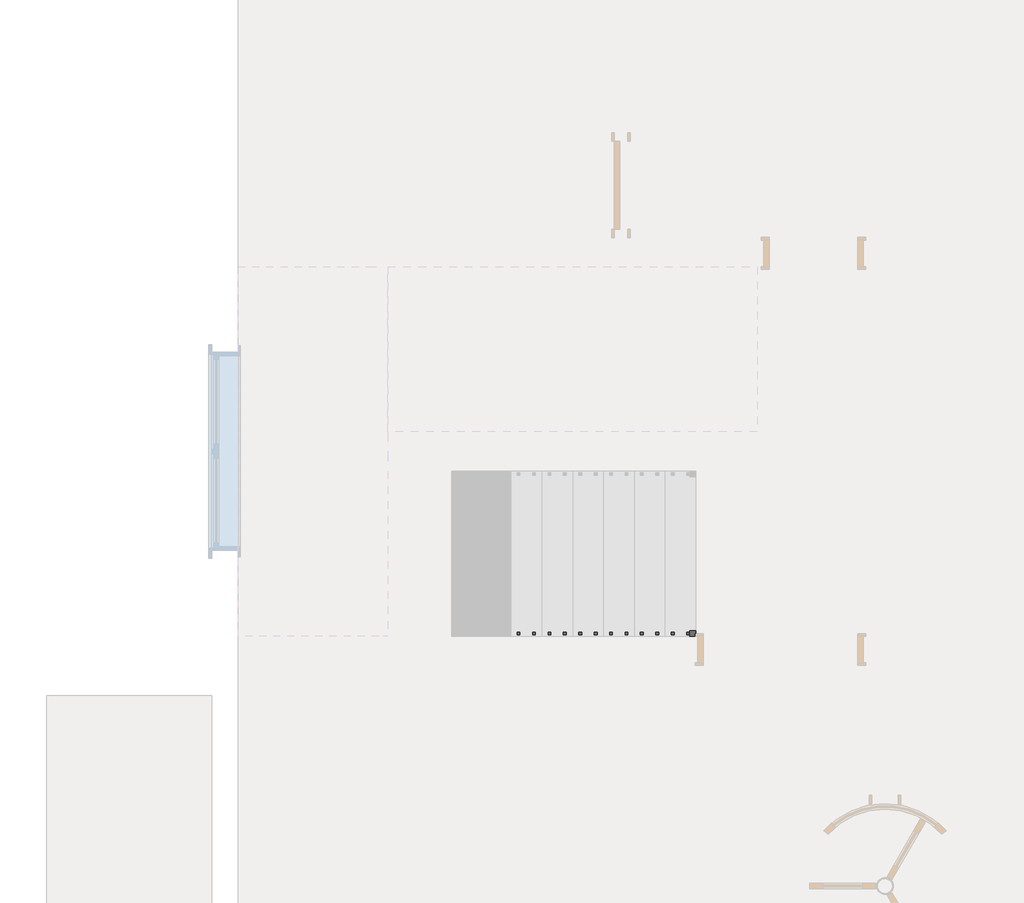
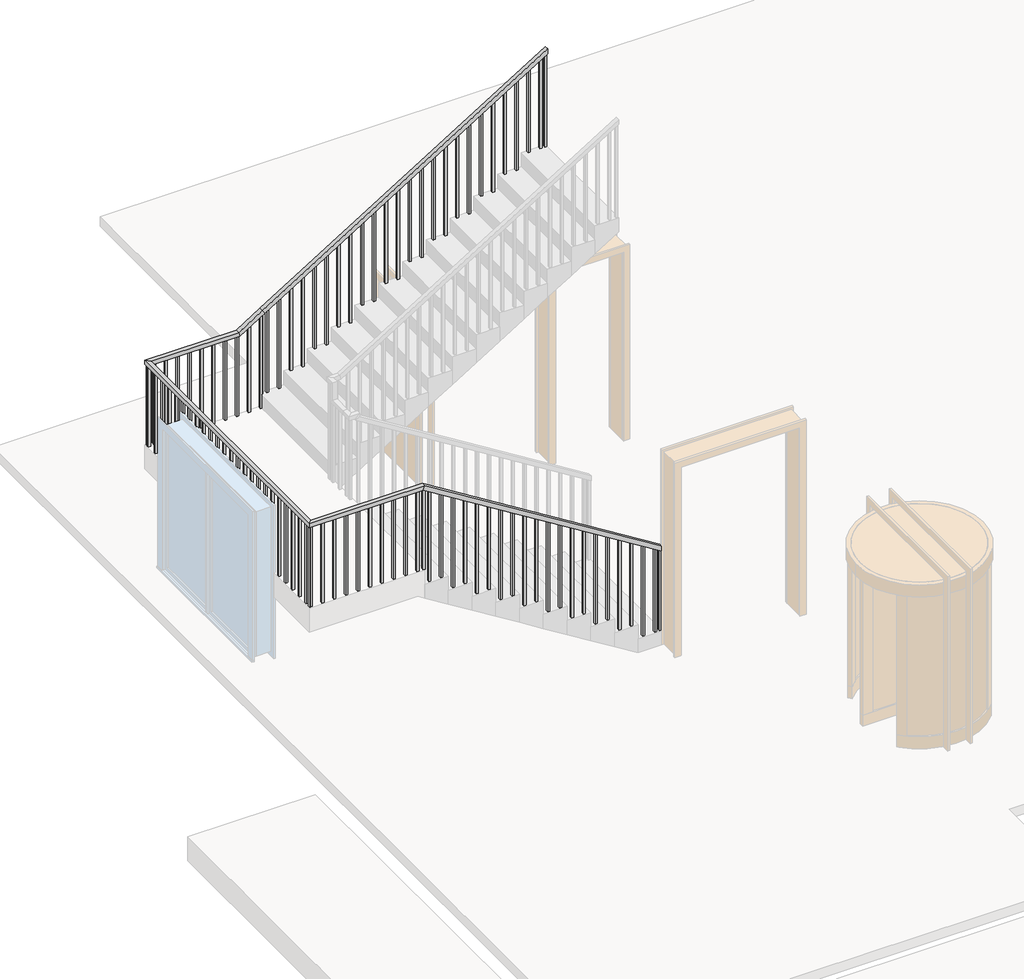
# One storey, part 2 of 3: 1 railing.
"""IFC4 building model written with IfcOpenShell, lengths in millimetres."""

from ifc_helpers import new_model, si_unit, frame, origin, place, context, project, spatial, polyline, outline, extrude, faceted_brep, element, save

model = new_model("IFC4")

# Units and contexts
model_context = context("Model", 3, world=origin())
ifc_project = project(units=[si_unit("LENGTHUNIT", "METRE", prefix="MILLI")], contexts=[model_context])

# Site, building, storey
site = spatial("IfcSite", under=ifc_project)
building = spatial("IfcBuilding", under=site)
storey = spatial("IfcBuildingStorey", under=building, Name="标高 1", Elevation=0.0)

# Railing
placement = place(None, origin())
element("IfcRailing", 1, ObjectType="1050", at=placement, inside=storey, context=model_context, shape_type="SolidModel", body=[
    faceted_brep([(725.1052473, -4208.368361, 1223.6842105), (725.1052473, -4208.368361, 1164.8460209), (725.1052473, -4158.368361, 1164.8460209), (725.1052473, -4158.368361, 1223.6842105), (-2074.8947527, -4208.368361, 2960.5263158), (-2089.1429857, -4208.368361, 2910.5263158), (-2089.1429857, -4158.368361, 2910.5263158), (-2074.8947527, -4158.368361, 2960.5263158), (-3434.4947527, -4208.368361, 2960.5263158), (-3434.4947527, -4208.368361, 2910.5263158), (-3384.4947527, -4158.368361, 2910.5263158), (-3384.4947527, -4158.368361, 2960.5263158), (-3434.4947527, -849.168361, 2960.5263158), (-3434.4947527, -849.168361, 2910.5263158), (-3384.4947527, -899.168361, 2910.5263158), (-3384.4947527, -899.168361, 2960.5263158), (-2354.8947527, -849.168361, 2960.5263158), (-2340.6465198, -849.168361, 2910.5263158), (-2340.6465198, -899.168361, 2910.5263158), (-2354.8947527, -899.168361, 2960.5263158), (-2074.8947527, -849.168361, 3134.2105263), (-2048.5385394, -849.168361, 3091.7211157), (-2048.5385394, -899.168361, 3091.7211157), (-2074.8947527, -899.168361, 3134.2105263), (1285.1052473, -849.168361, 5218.4210526), (1285.1052473, -899.168361, 5218.4210526), (1285.1052473, -899.168361, 5159.582863), (1285.1052473, -849.168361, 5159.582863)], [[[0, 1, 2, 3]], [[1, 0, 4, 5]], [[2, 1, 5, 6]], [[3, 2, 6, 7]], [[0, 3, 7, 4]], [[5, 4, 8, 9]], [[6, 5, 9, 10]], [[7, 6, 10, 11]], [[4, 7, 11, 8]], [[9, 8, 12, 13]], [[10, 9, 13, 14]], [[11, 10, 14, 15]], [[8, 11, 15, 12]], [[13, 12, 16, 17]], [[14, 13, 17, 18]], [[15, 14, 18, 19]], [[12, 15, 19, 16]], [[17, 16, 20, 21]], [[18, 17, 21, 22]], [[19, 18, 22, 23]], [[16, 19, 23, 20]], [[24, 25, 26, 27]], [[21, 20, 24, 27]], [[22, 21, 27, 26]], [[23, 22, 26, 25]], [[20, 23, 25, 24]]]),
    extrude(outline(polyline([(3994.7368421, 1202.6052473), (3994.7368421, 1227.6052473), (5123.9155698, 1227.6052473), (5108.408051, 1202.6052473), (3994.7368421, 1202.6052473)])), frame((0.0, -886.668361, 0.0), z_axis=(0.0, 1.0, 0.0), x_axis=(0.0, 0.0, 1.0)), (0.0, 0.0, 1.0), 25.0),
    extrude(outline(polyline([(3994.7368421, 1062.6052473), (3994.7368421, 1087.6052473), (5037.0734645, 1087.6052473), (5021.5659457, 1062.6052473), (3994.7368421, 1062.6052473)])), frame((0.0, -886.668361, 0.0), z_axis=(0.0, 1.0, 0.0), x_axis=(0.0, 0.0, 1.0)), (0.0, 0.0, 1.0), 25.0),
    extrude(outline(polyline([(3821.0526316, 922.6052473), (3821.0526316, 947.6052473), (4950.2313593, 947.6052473), (4934.7238405, 922.6052473), (3821.0526316, 922.6052473)])), frame((0.0, -886.668361, 0.0), z_axis=(0.0, 1.0, 0.0), x_axis=(0.0, 0.0, 1.0)), (0.0, 0.0, 1.0), 25.0),
    extrude(outline(polyline([(3821.0526316, 782.6052473), (3821.0526316, 807.6052473), (4863.389254, 807.6052473), (4847.8817352, 782.6052473), (3821.0526316, 782.6052473)])), frame((0.0, -886.668361, 0.0), z_axis=(0.0, 1.0, 0.0), x_axis=(0.0, 0.0, 1.0)), (0.0, 0.0, 1.0), 25.0),
    extrude(outline(polyline([(3647.3684211, 642.6052473), (3647.3684211, 667.6052473), (4776.5471487, 667.6052473), (4761.0396299, 642.6052473), (3647.3684211, 642.6052473)])), frame((0.0, -886.668361, 0.0), z_axis=(0.0, 1.0, 0.0), x_axis=(0.0, 0.0, 1.0)), (0.0, 0.0, 1.0), 25.0),
    extrude(outline(polyline([(3647.3684211, 502.6052473), (3647.3684211, 527.6052473), (4689.7050435, 527.6052473), (4674.1975247, 502.6052473), (3647.3684211, 502.6052473)])), frame((0.0, -886.668361, 0.0), z_axis=(0.0, 1.0, 0.0), x_axis=(0.0, 0.0, 1.0)), (0.0, 0.0, 1.0), 25.0),
    extrude(outline(polyline([(3473.6842105, 362.6052473), (3473.6842105, 387.6052473), (4602.8629382, 387.6052473), (4587.3554194, 362.6052473), (3473.6842105, 362.6052473)])), frame((0.0, -886.668361, 0.0), z_axis=(0.0, 1.0, 0.0), x_axis=(0.0, 0.0, 1.0)), (0.0, 0.0, 1.0), 25.0),
    extrude(outline(polyline([(3473.6842105, 222.6052473), (3473.6842105, 247.6052473), (4516.0208329, 247.6052473), (4500.5133141, 222.6052473), (3473.6842105, 222.6052473)])), frame((0.0, -886.668361, 0.0), z_axis=(0.0, 1.0, 0.0), x_axis=(0.0, 0.0, 1.0)), (0.0, 0.0, 1.0), 25.0),
    extrude(outline(polyline([(3300.0, 82.6052473), (3300.0, 107.6052473), (4429.1787277, 107.6052473), (4413.6712089, 82.6052473), (3300.0, 82.6052473)])), frame((0.0, -886.668361, 0.0), z_axis=(0.0, 1.0, 0.0), x_axis=(0.0, 0.0, 1.0)), (0.0, 0.0, 1.0), 25.0),
    extrude(outline(polyline([(3300.0, -57.3947527), (3300.0, -32.3947527), (4342.3366224, -32.3947527), (4326.8291036, -57.3947527), (3300.0, -57.3947527)])), frame((0.0, -886.668361, 0.0), z_axis=(0.0, 1.0, 0.0), x_axis=(0.0, 0.0, 1.0)), (0.0, 0.0, 1.0), 25.0),
    extrude(outline(polyline([(3126.3157895, -197.3947527), (3126.3157895, -172.3947527), (4255.4945172, -172.3947527), (4239.9869984, -197.3947527), (3126.3157895, -197.3947527)])), frame((0.0, -886.668361, 0.0), z_axis=(0.0, 1.0, 0.0), x_axis=(0.0, 0.0, 1.0)), (0.0, 0.0, 1.0), 25.0),
    extrude(outline(polyline([(3126.3157895, -337.3947527), (3126.3157895, -312.3947527), (4168.6524119, -312.3947527), (4153.1448931, -337.3947527), (3126.3157895, -337.3947527)])), frame((0.0, -886.668361, 0.0), z_axis=(0.0, 1.0, 0.0), x_axis=(0.0, 0.0, 1.0)), (0.0, 0.0, 1.0), 25.0),
    extrude(outline(polyline([(2952.6315789, -477.3947527), (2952.6315789, -452.3947527), (4081.8103066, -452.3947527), (4066.3027878, -477.3947527), (2952.6315789, -477.3947527)])), frame((0.0, -886.668361, 0.0), z_axis=(0.0, 1.0, 0.0), x_axis=(0.0, 0.0, 1.0)), (0.0, 0.0, 1.0), 25.0),
    extrude(outline(polyline([(2952.6315789, -617.3947527), (2952.6315789, -592.3947527), (3994.9682014, -592.3947527), (3979.4606826, -617.3947527), (2952.6315789, -617.3947527)])), frame((0.0, -886.668361, 0.0), z_axis=(0.0, 1.0, 0.0), x_axis=(0.0, 0.0, 1.0)), (0.0, 0.0, 1.0), 25.0),
    extrude(outline(polyline([(2778.9473684, -757.3947527), (2778.9473684, -732.3947527), (3908.1260961, -732.3947527), (3892.6185773, -757.3947527), (2778.9473684, -757.3947527)])), frame((0.0, -886.668361, 0.0), z_axis=(0.0, 1.0, 0.0), x_axis=(0.0, 0.0, 1.0)), (0.0, 0.0, 1.0), 25.0),
    extrude(outline(polyline([(2778.9473684, -897.3947527), (2778.9473684, -872.3947527), (3821.2839908, -872.3947527), (3805.776472, -897.3947527), (2778.9473684, -897.3947527)])), frame((0.0, -886.668361, 0.0), z_axis=(0.0, 1.0, 0.0), x_axis=(0.0, 0.0, 1.0)), (0.0, 0.0, 1.0), 25.0),
    extrude(outline(polyline([(2605.2631579, -1037.3947527), (2605.2631579, -1012.3947527), (3734.4418856, -1012.3947527), (3718.9343668, -1037.3947527), (2605.2631579, -1037.3947527)])), frame((0.0, -886.668361, 0.0), z_axis=(0.0, 1.0, 0.0), x_axis=(0.0, 0.0, 1.0)), (0.0, 0.0, 1.0), 25.0),
    extrude(outline(polyline([(2605.2631579, -1177.3947527), (2605.2631579, -1152.3947527), (3647.5997803, -1152.3947527), (3632.0922615, -1177.3947527), (2605.2631579, -1177.3947527)])), frame((0.0, -886.668361, 0.0), z_axis=(0.0, 1.0, 0.0), x_axis=(0.0, 0.0, 1.0)), (0.0, 0.0, 1.0), 25.0),
    extrude(outline(polyline([(2431.5789474, -1317.3947527), (2431.5789474, -1292.3947527), (3560.757675, -1292.3947527), (3545.2501563, -1317.3947527), (2431.5789474, -1317.3947527)])), frame((0.0, -886.668361, 0.0), z_axis=(0.0, 1.0, 0.0), x_axis=(0.0, 0.0, 1.0)), (0.0, 0.0, 1.0), 25.0),
    extrude(outline(polyline([(2431.5789474, -1457.3947527), (2431.5789474, -1432.3947527), (3473.9155698, -1432.3947527), (3458.408051, -1457.3947527), (2431.5789474, -1457.3947527)])), frame((0.0, -886.668361, 0.0), z_axis=(0.0, 1.0, 0.0), x_axis=(0.0, 0.0, 1.0)), (0.0, 0.0, 1.0), 25.0),
    extrude(outline(polyline([(2257.8947368, -1597.3947527), (2257.8947368, -1572.3947527), (3387.0734645, -1572.3947527), (3371.5659457, -1597.3947527), (2257.8947368, -1597.3947527)])), frame((0.0, -886.668361, 0.0), z_axis=(0.0, 1.0, 0.0), x_axis=(0.0, 0.0, 1.0)), (0.0, 0.0, 1.0), 25.0),
    extrude(outline(polyline([(2257.8947368, -1737.3947527), (2257.8947368, -1712.3947527), (3300.2313593, -1712.3947527), (3284.7238405, -1737.3947527), (2257.8947368, -1737.3947527)])), frame((0.0, -886.668361, 0.0), z_axis=(0.0, 1.0, 0.0), x_axis=(0.0, 0.0, 1.0)), (0.0, 0.0, 1.0), 25.0),
    extrude(outline(polyline([(2084.2105263, -1877.3947527), (2084.2105263, -1852.3947527), (3213.389254, -1852.3947527), (3197.8817352, -1877.3947527), (2084.2105263, -1877.3947527)])), frame((0.0, -886.668361, 0.0), z_axis=(0.0, 1.0, 0.0), x_axis=(0.0, 0.0, 1.0)), (0.0, 0.0, 1.0), 25.0),
    extrude(outline(polyline([(2084.2105263, -2017.3947527), (2084.2105263, -1992.3947527), (3126.5471487, -1992.3947527), (3111.0396299, -2017.3947527), (2084.2105263, -2017.3947527)])), frame((0.0, -886.668361, 0.0), z_axis=(0.0, 1.0, 0.0), x_axis=(0.0, 0.0, 1.0)), (0.0, 0.0, 1.0), 25.0),
    extrude(outline(polyline([(1910.5263158, -2091.9947527), (1910.5263158, -2066.9947527), (3080.2727126, -2066.9947527), (3064.7651938, -2091.9947527), (1910.5263158, -2091.9947527)])), frame((0.0, -886.668361, 0.0), z_axis=(0.0, 1.0, 0.0), x_axis=(0.0, 0.0, 1.0)), (0.0, 0.0, 1.0), 25.0),
    extrude(outline(polyline([(1910.5263158, -2231.9947527), (1910.5263158, -2206.9947527), (2993.4306074, -2206.9947527), (2977.9230886, -2231.9947527), (1910.5263158, -2231.9947527)])), frame((0.0, -886.668361, 0.0), z_axis=(0.0, 1.0, 0.0), x_axis=(0.0, 0.0, 1.0)), (0.0, 0.0, 1.0), 25.0),
    extrude(outline(polyline([(-2371.9947527, -861.668361), (-2346.9947527, -861.668361), (-2346.9947527, -886.668361), (-2371.9947527, -886.668361), (-2371.9947527, -861.668361)])), frame((0.0, 0.0, 1910.5263158), z_axis=(0.0, 0.0, 1.0), x_axis=(1.0, 0.0, 0.0)), (0.0, 0.0, 1.0), 1000.0),
    extrude(outline(polyline([(-2511.9947527, -861.668361), (-2486.9947527, -861.668361), (-2486.9947527, -886.668361), (-2511.9947527, -886.668361), (-2511.9947527, -861.668361)])), frame((0.0, 0.0, 1910.5263158), z_axis=(0.0, 0.0, 1.0), x_axis=(1.0, 0.0, 0.0)), (0.0, 0.0, 1.0), 1000.0),
    extrude(outline(polyline([(-2651.9947527, -861.668361), (-2626.9947527, -861.668361), (-2626.9947527, -886.668361), (-2651.9947527, -886.668361), (-2651.9947527, -861.668361)])), frame((0.0, 0.0, 1910.5263158), z_axis=(0.0, 0.0, 1.0), x_axis=(1.0, 0.0, 0.0)), (0.0, 0.0, 1.0), 1000.0),
    extrude(outline(polyline([(-2791.9947527, -861.668361), (-2766.9947527, -861.668361), (-2766.9947527, -886.668361), (-2791.9947527, -886.668361), (-2791.9947527, -861.668361)])), frame((0.0, 0.0, 1910.5263158), z_axis=(0.0, 0.0, 1.0), x_axis=(1.0, 0.0, 0.0)), (0.0, 0.0, 1.0), 1000.0),
    extrude(outline(polyline([(-2931.9947527, -861.668361), (-2906.9947527, -861.668361), (-2906.9947527, -886.668361), (-2931.9947527, -886.668361), (-2931.9947527, -861.668361)])), frame((0.0, 0.0, 1910.5263158), z_axis=(0.0, 0.0, 1.0), x_axis=(1.0, 0.0, 0.0)), (0.0, 0.0, 1.0), 1000.0),
    extrude(outline(polyline([(-3071.9947527, -861.668361), (-3046.9947527, -861.668361), (-3046.9947527, -886.668361), (-3071.9947527, -886.668361), (-3071.9947527, -861.668361)])), frame((0.0, 0.0, 1910.5263158), z_axis=(0.0, 0.0, 1.0), x_axis=(1.0, 0.0, 0.0)), (0.0, 0.0, 1.0), 1000.0),
    extrude(outline(polyline([(-3211.9947527, -861.668361), (-3186.9947527, -861.668361), (-3186.9947527, -886.668361), (-3211.9947527, -886.668361), (-3211.9947527, -861.668361)])), frame((0.0, 0.0, 1910.5263158), z_axis=(0.0, 0.0, 1.0), x_axis=(1.0, 0.0, 0.0)), (0.0, 0.0, 1.0), 1000.0),
    extrude(outline(polyline([(-3351.9947527, -861.668361), (-3326.9947527, -861.668361), (-3326.9947527, -886.668361), (-3351.9947527, -886.668361), (-3351.9947527, -861.668361)])), frame((0.0, 0.0, 1910.5263158), z_axis=(0.0, 0.0, 1.0), x_axis=(1.0, 0.0, 0.0)), (0.0, 0.0, 1.0), 1000.0),
    extrude(outline(polyline([(-3421.9947527, -905.868361), (-3421.9947527, -880.868361), (-3396.9947527, -880.868361), (-3396.9947527, -905.868361), (-3421.9947527, -905.868361)])), frame((0.0, 0.0, 1910.5263158), z_axis=(0.0, 0.0, 1.0), x_axis=(1.0, 0.0, 0.0)), (0.0, 0.0, 1.0), 1000.0),
    extrude(outline(polyline([(-3421.9947527, -1045.868361), (-3421.9947527, -1020.868361), (-3396.9947527, -1020.868361), (-3396.9947527, -1045.868361), (-3421.9947527, -1045.868361)])), frame((0.0, 0.0, 1910.5263158), z_axis=(0.0, 0.0, 1.0), x_axis=(1.0, 0.0, 0.0)), (0.0, 0.0, 1.0), 1000.0),
    extrude(outline(polyline([(-3421.9947527, -1185.868361), (-3421.9947527, -1160.868361), (-3396.9947527, -1160.868361), (-3396.9947527, -1185.868361), (-3421.9947527, -1185.868361)])), frame((0.0, 0.0, 1910.5263158), z_axis=(0.0, 0.0, 1.0), x_axis=(1.0, 0.0, 0.0)), (0.0, 0.0, 1.0), 1000.0),
    extrude(outline(polyline([(-3421.9947527, -1325.868361), (-3421.9947527, -1300.868361), (-3396.9947527, -1300.868361), (-3396.9947527, -1325.868361), (-3421.9947527, -1325.868361)])), frame((0.0, 0.0, 1910.5263158), z_axis=(0.0, 0.0, 1.0), x_axis=(1.0, 0.0, 0.0)), (0.0, 0.0, 1.0), 1000.0),
    extrude(outline(polyline([(-3421.9947527, -1465.868361), (-3421.9947527, -1440.868361), (-3396.9947527, -1440.868361), (-3396.9947527, -1465.868361), (-3421.9947527, -1465.868361)])), frame((0.0, 0.0, 1910.5263158), z_axis=(0.0, 0.0, 1.0), x_axis=(1.0, 0.0, 0.0)), (0.0, 0.0, 1.0), 1000.0),
    extrude(outline(polyline([(-3421.9947527, -1605.868361), (-3421.9947527, -1580.868361), (-3396.9947527, -1580.868361), (-3396.9947527, -1605.868361), (-3421.9947527, -1605.868361)])), frame((0.0, 0.0, 1910.5263158), z_axis=(0.0, 0.0, 1.0), x_axis=(1.0, 0.0, 0.0)), (0.0, 0.0, 1.0), 1000.0),
    extrude(outline(polyline([(-3421.9947527, -1745.868361), (-3421.9947527, -1720.868361), (-3396.9947527, -1720.868361), (-3396.9947527, -1745.868361), (-3421.9947527, -1745.868361)])), frame((0.0, 0.0, 1910.5263158), z_axis=(0.0, 0.0, 1.0), x_axis=(1.0, 0.0, 0.0)), (0.0, 0.0, 1.0), 1000.0),
    extrude(outline(polyline([(-3421.9947527, -1885.868361), (-3421.9947527, -1860.868361), (-3396.9947527, -1860.868361), (-3396.9947527, -1885.868361), (-3421.9947527, -1885.868361)])), frame((0.0, 0.0, 1910.5263158), z_axis=(0.0, 0.0, 1.0), x_axis=(1.0, 0.0, 0.0)), (0.0, 0.0, 1.0), 1000.0),
    extrude(outline(polyline([(-3421.9947527, -2025.868361), (-3421.9947527, -2000.868361), (-3396.9947527, -2000.868361), (-3396.9947527, -2025.868361), (-3421.9947527, -2025.868361)])), frame((0.0, 0.0, 1910.5263158), z_axis=(0.0, 0.0, 1.0), x_axis=(1.0, 0.0, 0.0)), (0.0, 0.0, 1.0), 1000.0),
    extrude(outline(polyline([(-3421.9947527, -2165.868361), (-3421.9947527, -2140.868361), (-3396.9947527, -2140.868361), (-3396.9947527, -2165.868361), (-3421.9947527, -2165.868361)])), frame((0.0, 0.0, 1910.5263158), z_axis=(0.0, 0.0, 1.0), x_axis=(1.0, 0.0, 0.0)), (0.0, 0.0, 1.0), 1000.0),
    extrude(outline(polyline([(-3421.9947527, -2305.868361), (-3421.9947527, -2280.868361), (-3396.9947527, -2280.868361), (-3396.9947527, -2305.868361), (-3421.9947527, -2305.868361)])), frame((0.0, 0.0, 1910.5263158), z_axis=(0.0, 0.0, 1.0), x_axis=(1.0, 0.0, 0.0)), (0.0, 0.0, 1.0), 1000.0),
    extrude(outline(polyline([(-3421.9947527, -2445.868361), (-3421.9947527, -2420.868361), (-3396.9947527, -2420.868361), (-3396.9947527, -2445.868361), (-3421.9947527, -2445.868361)])), frame((0.0, 0.0, 1910.5263158), z_axis=(0.0, 0.0, 1.0), x_axis=(1.0, 0.0, 0.0)), (0.0, 0.0, 1.0), 1000.0),
    extrude(outline(polyline([(-3421.9947527, -2585.868361), (-3421.9947527, -2560.868361), (-3396.9947527, -2560.868361), (-3396.9947527, -2585.868361), (-3421.9947527, -2585.868361)])), frame((0.0, 0.0, 1910.5263158), z_axis=(0.0, 0.0, 1.0), x_axis=(1.0, 0.0, 0.0)), (0.0, 0.0, 1.0), 1000.0),
    extrude(outline(polyline([(-3421.9947527, -2725.868361), (-3421.9947527, -2700.868361), (-3396.9947527, -2700.868361), (-3396.9947527, -2725.868361), (-3421.9947527, -2725.868361)])), frame((0.0, 0.0, 1910.5263158), z_axis=(0.0, 0.0, 1.0), x_axis=(1.0, 0.0, 0.0)), (0.0, 0.0, 1.0), 1000.0),
    extrude(outline(polyline([(-3421.9947527, -2865.868361), (-3421.9947527, -2840.868361), (-3396.9947527, -2840.868361), (-3396.9947527, -2865.868361), (-3421.9947527, -2865.868361)])), frame((0.0, 0.0, 1910.5263158), z_axis=(0.0, 0.0, 1.0), x_axis=(1.0, 0.0, 0.0)), (0.0, 0.0, 1.0), 1000.0),
    extrude(outline(polyline([(-3421.9947527, -3005.868361), (-3421.9947527, -2980.868361), (-3396.9947527, -2980.868361), (-3396.9947527, -3005.868361), (-3421.9947527, -3005.868361)])), frame((0.0, 0.0, 1910.5263158), z_axis=(0.0, 0.0, 1.0), x_axis=(1.0, 0.0, 0.0)), (0.0, 0.0, 1.0), 1000.0),
    extrude(outline(polyline([(-3421.9947527, -3145.868361), (-3421.9947527, -3120.868361), (-3396.9947527, -3120.868361), (-3396.9947527, -3145.868361), (-3421.9947527, -3145.868361)])), frame((0.0, 0.0, 1910.5263158), z_axis=(0.0, 0.0, 1.0), x_axis=(1.0, 0.0, 0.0)), (0.0, 0.0, 1.0), 1000.0),
    extrude(outline(polyline([(-3421.9947527, -3285.868361), (-3421.9947527, -3260.868361), (-3396.9947527, -3260.868361), (-3396.9947527, -3285.868361), (-3421.9947527, -3285.868361)])), frame((0.0, 0.0, 1910.5263158), z_axis=(0.0, 0.0, 1.0), x_axis=(1.0, 0.0, 0.0)), (0.0, 0.0, 1.0), 1000.0),
    extrude(outline(polyline([(-3421.9947527, -3425.868361), (-3421.9947527, -3400.868361), (-3396.9947527, -3400.868361), (-3396.9947527, -3425.868361), (-3421.9947527, -3425.868361)])), frame((0.0, 0.0, 1910.5263158), z_axis=(0.0, 0.0, 1.0), x_axis=(1.0, 0.0, 0.0)), (0.0, 0.0, 1.0), 1000.0),
    extrude(outline(polyline([(-3421.9947527, -3565.868361), (-3421.9947527, -3540.868361), (-3396.9947527, -3540.868361), (-3396.9947527, -3565.868361), (-3421.9947527, -3565.868361)])), frame((0.0, 0.0, 1910.5263158), z_axis=(0.0, 0.0, 1.0), x_axis=(1.0, 0.0, 0.0)), (0.0, 0.0, 1.0), 1000.0),
    extrude(outline(polyline([(-3421.9947527, -3705.868361), (-3421.9947527, -3680.868361), (-3396.9947527, -3680.868361), (-3396.9947527, -3705.868361), (-3421.9947527, -3705.868361)])), frame((0.0, 0.0, 1910.5263158), z_axis=(0.0, 0.0, 1.0), x_axis=(1.0, 0.0, 0.0)), (0.0, 0.0, 1.0), 1000.0),
    extrude(outline(polyline([(-3421.9947527, -3845.868361), (-3421.9947527, -3820.868361), (-3396.9947527, -3820.868361), (-3396.9947527, -3845.868361), (-3421.9947527, -3845.868361)])), frame((0.0, 0.0, 1910.5263158), z_axis=(0.0, 0.0, 1.0), x_axis=(1.0, 0.0, 0.0)), (0.0, 0.0, 1.0), 1000.0),
    extrude(outline(polyline([(-3421.9947527, -3985.868361), (-3421.9947527, -3960.868361), (-3396.9947527, -3960.868361), (-3396.9947527, -3985.868361), (-3421.9947527, -3985.868361)])), frame((0.0, 0.0, 1910.5263158), z_axis=(0.0, 0.0, 1.0), x_axis=(1.0, 0.0, 0.0)), (0.0, 0.0, 1.0), 1000.0),
    extrude(outline(polyline([(-3421.9947527, -4125.868361), (-3421.9947527, -4100.868361), (-3396.9947527, -4100.868361), (-3396.9947527, -4125.868361), (-3421.9947527, -4125.868361)])), frame((0.0, 0.0, 1910.5263158), z_axis=(0.0, 0.0, 1.0), x_axis=(1.0, 0.0, 0.0)), (0.0, 0.0, 1.0), 1000.0),
    extrude(outline(polyline([(-3392.3947527, -4195.868361), (-3417.3947527, -4195.868361), (-3417.3947527, -4170.868361), (-3392.3947527, -4170.868361), (-3392.3947527, -4195.868361)])), frame((0.0, 0.0, 1910.5263158), z_axis=(0.0, 0.0, 1.0), x_axis=(1.0, 0.0, 0.0)), (0.0, 0.0, 1.0), 1000.0),
    extrude(outline(polyline([(-3252.3947527, -4195.868361), (-3277.3947527, -4195.868361), (-3277.3947527, -4170.868361), (-3252.3947527, -4170.868361), (-3252.3947527, -4195.868361)])), frame((0.0, 0.0, 1910.5263158), z_axis=(0.0, 0.0, 1.0), x_axis=(1.0, 0.0, 0.0)), (0.0, 0.0, 1.0), 1000.0),
    extrude(outline(polyline([(-3112.3947527, -4195.868361), (-3137.3947527, -4195.868361), (-3137.3947527, -4170.868361), (-3112.3947527, -4170.868361), (-3112.3947527, -4195.868361)])), frame((0.0, 0.0, 1910.5263158), z_axis=(0.0, 0.0, 1.0), x_axis=(1.0, 0.0, 0.0)), (0.0, 0.0, 1.0), 1000.0),
    extrude(outline(polyline([(-2972.3947527, -4195.868361), (-2997.3947527, -4195.868361), (-2997.3947527, -4170.868361), (-2972.3947527, -4170.868361), (-2972.3947527, -4195.868361)])), frame((0.0, 0.0, 1910.5263158), z_axis=(0.0, 0.0, 1.0), x_axis=(1.0, 0.0, 0.0)), (0.0, 0.0, 1.0), 1000.0),
    extrude(outline(polyline([(-2832.3947527, -4195.868361), (-2857.3947527, -4195.868361), (-2857.3947527, -4170.868361), (-2832.3947527, -4170.868361), (-2832.3947527, -4195.868361)])), frame((0.0, 0.0, 1910.5263158), z_axis=(0.0, 0.0, 1.0), x_axis=(1.0, 0.0, 0.0)), (0.0, 0.0, 1.0), 1000.0),
    extrude(outline(polyline([(-2692.3947527, -4195.868361), (-2717.3947527, -4195.868361), (-2717.3947527, -4170.868361), (-2692.3947527, -4170.868361), (-2692.3947527, -4195.868361)])), frame((0.0, 0.0, 1910.5263158), z_axis=(0.0, 0.0, 1.0), x_axis=(1.0, 0.0, 0.0)), (0.0, 0.0, 1.0), 1000.0),
    extrude(outline(polyline([(-2552.3947527, -4195.868361), (-2577.3947527, -4195.868361), (-2577.3947527, -4170.868361), (-2552.3947527, -4170.868361), (-2552.3947527, -4195.868361)])), frame((0.0, 0.0, 1910.5263158), z_axis=(0.0, 0.0, 1.0), x_axis=(1.0, 0.0, 0.0)), (0.0, 0.0, 1.0), 1000.0),
    extrude(outline(polyline([(-2412.3947527, -4195.868361), (-2437.3947527, -4195.868361), (-2437.3947527, -4170.868361), (-2412.3947527, -4170.868361), (-2412.3947527, -4195.868361)])), frame((0.0, 0.0, 1910.5263158), z_axis=(0.0, 0.0, 1.0), x_axis=(1.0, 0.0, 0.0)), (0.0, 0.0, 1.0), 1000.0),
    extrude(outline(polyline([(-2272.3947527, -4195.868361), (-2297.3947527, -4195.868361), (-2297.3947527, -4170.868361), (-2272.3947527, -4170.868361), (-2272.3947527, -4195.868361)])), frame((0.0, 0.0, 1910.5263158), z_axis=(0.0, 0.0, 1.0), x_axis=(1.0, 0.0, 0.0)), (0.0, 0.0, 1.0), 1000.0),
    extrude(outline(polyline([(-2132.3947527, -4195.868361), (-2157.3947527, -4195.868361), (-2157.3947527, -4170.868361), (-2132.3947527, -4170.868361), (-2132.3947527, -4195.868361)])), frame((0.0, 0.0, 1910.5263158), z_axis=(0.0, 0.0, 1.0), x_axis=(1.0, 0.0, 0.0)), (0.0, 0.0, 1.0), 1000.0),
    extrude(outline(polyline([(2850.5133141, -1992.3947527), (2866.0208329, -2017.3947527), (1736.8421053, -2017.3947527), (1736.8421053, -1992.3947527), (2850.5133141, -1992.3947527)])), frame((0.0, -4195.868361, 0.0), z_axis=(0.0, 1.0, 0.0), x_axis=(0.0, 0.0, 1.0)), (0.0, 0.0, 1.0), 25.0),
    extrude(outline(polyline([(2763.6712089, -1852.3947527), (2779.1787277, -1877.3947527), (1736.8421053, -1877.3947527), (1736.8421053, -1852.3947527), (2763.6712089, -1852.3947527)])), frame((0.0, -4195.868361, 0.0), z_axis=(0.0, 1.0, 0.0), x_axis=(0.0, 0.0, 1.0)), (0.0, 0.0, 1.0), 25.0),
    extrude(outline(polyline([(2676.8291036, -1712.3947527), (2692.3366224, -1737.3947527), (1563.1578947, -1737.3947527), (1563.1578947, -1712.3947527), (2676.8291036, -1712.3947527)])), frame((0.0, -4195.868361, 0.0), z_axis=(0.0, 1.0, 0.0), x_axis=(0.0, 0.0, 1.0)), (0.0, 0.0, 1.0), 25.0),
    extrude(outline(polyline([(2589.9869984, -1572.3947527), (2605.4945172, -1597.3947527), (1563.1578947, -1597.3947527), (1563.1578947, -1572.3947527), (2589.9869984, -1572.3947527)])), frame((0.0, -4195.868361, 0.0), z_axis=(0.0, 1.0, 0.0), x_axis=(0.0, 0.0, 1.0)), (0.0, 0.0, 1.0), 25.0),
    extrude(outline(polyline([(2503.1448931, -1432.3947527), (2518.6524119, -1457.3947527), (1389.4736842, -1457.3947527), (1389.4736842, -1432.3947527), (2503.1448931, -1432.3947527)])), frame((0.0, -4195.868361, 0.0), z_axis=(0.0, 1.0, 0.0), x_axis=(0.0, 0.0, 1.0)), (0.0, 0.0, 1.0), 25.0),
    extrude(outline(polyline([(2416.3027878, -1292.3947527), (2431.8103066, -1317.3947527), (1389.4736842, -1317.3947527), (1389.4736842, -1292.3947527), (2416.3027878, -1292.3947527)])), frame((0.0, -4195.868361, 0.0), z_axis=(0.0, 1.0, 0.0), x_axis=(0.0, 0.0, 1.0)), (0.0, 0.0, 1.0), 25.0),
    extrude(outline(polyline([(2329.4606826, -1152.3947527), (2344.9682014, -1177.3947527), (1215.7894737, -1177.3947527), (1215.7894737, -1152.3947527), (2329.4606826, -1152.3947527)])), frame((0.0, -4195.868361, 0.0), z_axis=(0.0, 1.0, 0.0), x_axis=(0.0, 0.0, 1.0)), (0.0, 0.0, 1.0), 25.0),
    extrude(outline(polyline([(2242.6185773, -1012.3947527), (2258.1260961, -1037.3947527), (1215.7894737, -1037.3947527), (1215.7894737, -1012.3947527), (2242.6185773, -1012.3947527)])), frame((0.0, -4195.868361, 0.0), z_axis=(0.0, 1.0, 0.0), x_axis=(0.0, 0.0, 1.0)), (0.0, 0.0, 1.0), 25.0),
    extrude(outline(polyline([(2155.776472, -872.3947527), (2171.2839908, -897.3947527), (1042.1052632, -897.3947527), (1042.1052632, -872.3947527), (2155.776472, -872.3947527)])), frame((0.0, -4195.868361, 0.0), z_axis=(0.0, 1.0, 0.0), x_axis=(0.0, 0.0, 1.0)), (0.0, 0.0, 1.0), 25.0),
    extrude(outline(polyline([(2068.9343668, -732.3947527), (2084.4418856, -757.3947527), (1042.1052632, -757.3947527), (1042.1052632, -732.3947527), (2068.9343668, -732.3947527)])), frame((0.0, -4195.868361, 0.0), z_axis=(0.0, 1.0, 0.0), x_axis=(0.0, 0.0, 1.0)), (0.0, 0.0, 1.0), 25.0),
    extrude(outline(polyline([(1982.0922615, -592.3947527), (1997.5997803, -617.3947527), (868.4210526, -617.3947527), (868.4210526, -592.3947527), (1982.0922615, -592.3947527)])), frame((0.0, -4195.868361, 0.0), z_axis=(0.0, 1.0, 0.0), x_axis=(0.0, 0.0, 1.0)), (0.0, 0.0, 1.0), 25.0),
    extrude(outline(polyline([(1895.2501563, -452.3947527), (1910.757675, -477.3947527), (868.4210526, -477.3947527), (868.4210526, -452.3947527), (1895.2501563, -452.3947527)])), frame((0.0, -4195.868361, 0.0), z_axis=(0.0, 1.0, 0.0), x_axis=(0.0, 0.0, 1.0)), (0.0, 0.0, 1.0), 25.0),
    extrude(outline(polyline([(1808.408051, -312.3947527), (1823.9155698, -337.3947527), (694.7368421, -337.3947527), (694.7368421, -312.3947527), (1808.408051, -312.3947527)])), frame((0.0, -4195.868361, 0.0), z_axis=(0.0, 1.0, 0.0), x_axis=(0.0, 0.0, 1.0)), (0.0, 0.0, 1.0), 25.0),
    extrude(outline(polyline([(1721.5659457, -172.3947527), (1737.0734645, -197.3947527), (694.7368421, -197.3947527), (694.7368421, -172.3947527), (1721.5659457, -172.3947527)])), frame((0.0, -4195.868361, 0.0), z_axis=(0.0, 1.0, 0.0), x_axis=(0.0, 0.0, 1.0)), (0.0, 0.0, 1.0), 25.0),
    extrude(outline(polyline([(1634.7238405, -32.3947527), (1650.2313593, -57.3947527), (521.0526316, -57.3947527), (521.0526316, -32.3947527), (1634.7238405, -32.3947527)])), frame((0.0, -4195.868361, 0.0), z_axis=(0.0, 1.0, 0.0), x_axis=(0.0, 0.0, 1.0)), (0.0, 0.0, 1.0), 25.0),
    extrude(outline(polyline([(1547.8817352, 107.6052473), (1563.389254, 82.6052473), (521.0526316, 82.6052473), (521.0526316, 107.6052473), (1547.8817352, 107.6052473)])), frame((0.0, -4195.868361, 0.0), z_axis=(0.0, 1.0, 0.0), x_axis=(0.0, 0.0, 1.0)), (0.0, 0.0, 1.0), 25.0),
    extrude(outline(polyline([(1461.0396299, 247.6052473), (1476.5471487, 222.6052473), (347.3684211, 222.6052473), (347.3684211, 247.6052473), (1461.0396299, 247.6052473)])), frame((0.0, -4195.868361, 0.0), z_axis=(0.0, 1.0, 0.0), x_axis=(0.0, 0.0, 1.0)), (0.0, 0.0, 1.0), 25.0),
    extrude(outline(polyline([(1374.1975247, 387.6052473), (1389.7050435, 362.6052473), (347.3684211, 362.6052473), (347.3684211, 387.6052473), (1374.1975247, 387.6052473)])), frame((0.0, -4195.868361, 0.0), z_axis=(0.0, 1.0, 0.0), x_axis=(0.0, 0.0, 1.0)), (0.0, 0.0, 1.0), 25.0),
    extrude(outline(polyline([(1287.3554194, 527.6052473), (1302.8629382, 502.6052473), (173.6842105, 502.6052473), (173.6842105, 527.6052473), (1287.3554194, 527.6052473)])), frame((0.0, -4195.868361, 0.0), z_axis=(0.0, 1.0, 0.0), x_axis=(0.0, 0.0, 1.0)), (0.0, 0.0, 1.0), 25.0),
    extrude(outline(polyline([(1200.5133141, 667.6052473), (1216.0208329, 642.6052473), (173.6842105, 642.6052473), (173.6842105, 667.6052473), (1200.5133141, 667.6052473)])), frame((0.0, -4195.868361, 0.0), z_axis=(0.0, 1.0, 0.0), x_axis=(0.0, 0.0, 1.0)), (0.0, 0.0, 1.0), 25.0),
    extrude(outline(polyline([(1910.5263158, -2087.3947527), (1910.5263158, -2062.3947527), (3083.1260961, -2062.3947527), (3067.6185773, -2087.3947527), (1910.5263158, -2087.3947527)])), frame((0.0, -886.668361, 0.0), z_axis=(0.0, 1.0, 0.0), x_axis=(0.0, 0.0, 1.0)), (0.0, 0.0, 1.0), 25.0),
    extrude(outline(polyline([(-3421.9947527, -886.668361), (-3421.9947527, -861.668361), (-3396.9947527, -861.668361), (-3396.9947527, -886.668361), (-3421.9947527, -886.668361)])), frame((0.0, 0.0, 1910.5263158), z_axis=(0.0, 0.0, 1.0), x_axis=(1.0, 0.0, 0.0)), (0.0, 0.0, 1.0), 1000.0),
    extrude(outline(polyline([(-3396.9947527, -4195.868361), (-3421.9947527, -4195.868361), (-3421.9947527, -4170.868361), (-3396.9947527, -4170.868361), (-3396.9947527, -4195.868361)])), frame((0.0, 0.0, 1910.5263158), z_axis=(0.0, 0.0, 1.0), x_axis=(1.0, 0.0, 0.0)), (0.0, 0.0, 1.0), 1000.0),
    extrude(outline(polyline([(2893.9343668, -2062.3947527), (2909.4418856, -2087.3947527), (1910.5263158, -2087.3947527), (1910.5263158, -2062.3947527), (2893.9343668, -2062.3947527)])), frame((0.0, -4195.868361, 0.0), z_axis=(0.0, 1.0, 0.0), x_axis=(0.0, 0.0, 1.0)), (0.0, 0.0, 1.0), 25.0),
    extrude(outline(polyline([(3994.7368421, 1260.1052473), (3994.7368421, 1285.1052473), (5159.582863, 1285.1052473), (5144.0753442, 1260.1052473), (3994.7368421, 1260.1052473)])), frame((0.0, -886.668361, 0.0), z_axis=(0.0, 1.0, 0.0), x_axis=(0.0, 0.0, 1.0)), (0.0, 0.0, 1.0), 25.0),
    extrude(outline(polyline([(1164.8460209, 725.1052473), (1180.3535397, 700.1052473), (173.6842105, 700.1052473), (173.6842105, 725.1052473), (1164.8460209, 725.1052473)])), frame((0.0, -4195.868361, 0.0), z_axis=(0.0, 1.0, 0.0), x_axis=(0.0, 0.0, 1.0)), (0.0, 0.0, 1.0), 25.0),
])

save(model, "model.ifc")
